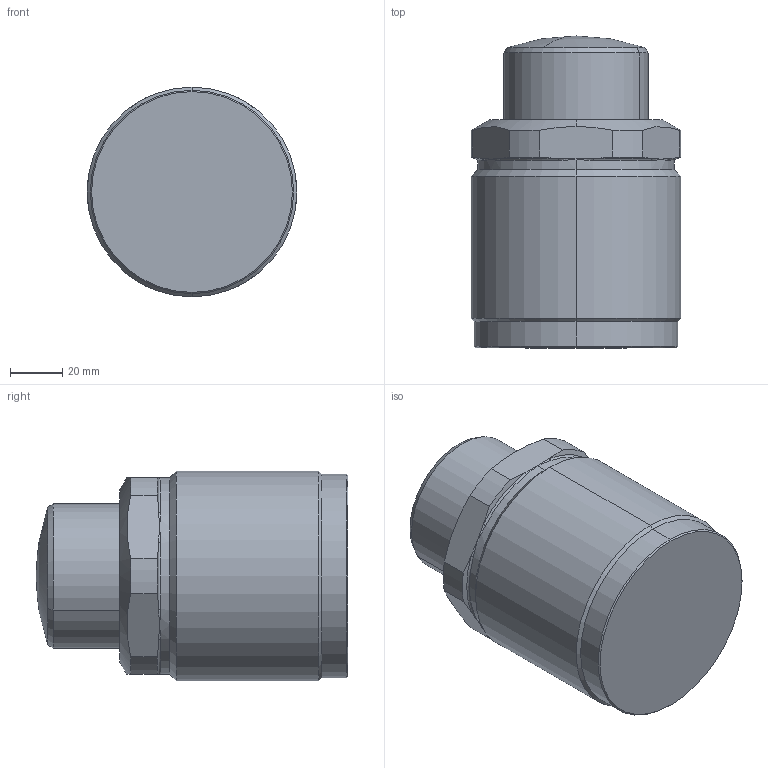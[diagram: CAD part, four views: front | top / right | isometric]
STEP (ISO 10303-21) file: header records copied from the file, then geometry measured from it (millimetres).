
FILE_DESCRIPTION((' '),'2;1');
FILE_NAME( 'CMC60-25R.x_t.stp', '2024-08-27T13:58:42', (' '), ('--- Datakit www.datakit.com---'), ' Datakit CrossCadWare V2024.1 Dec 21 2023', 'Mastercam 2025', ' ');
FILE_SCHEMA(('AUTOMOTIVE_DESIGN { 1 0 10303 214 1 1 1 1 }'));
Length unit declared in the file: millimetre
Products named in the file (1): CMC60-25R
Bounding box: 80 x 119 x 80 mm (x, y, z)
Volume: 435003.8 mm3; surface area: 44745.2 mm2
Topology: 2 solids, 2 shells, 62 faces, 155 edges, 84 vertices
Faces by surface type: cylinder 16, cone 16, bspline 12, plane 10, torus 6, sphere 2
Entity records: 3649 total; most frequent: CARTESIAN_POINT 2288, ORIENTED_EDGE 282, DIRECTION 264, EDGE_CURVE 141, AXIS2_PLACEMENT_3D 116, VERTEX_POINT 84, CIRCLE 65, EDGE_LOOP 63
